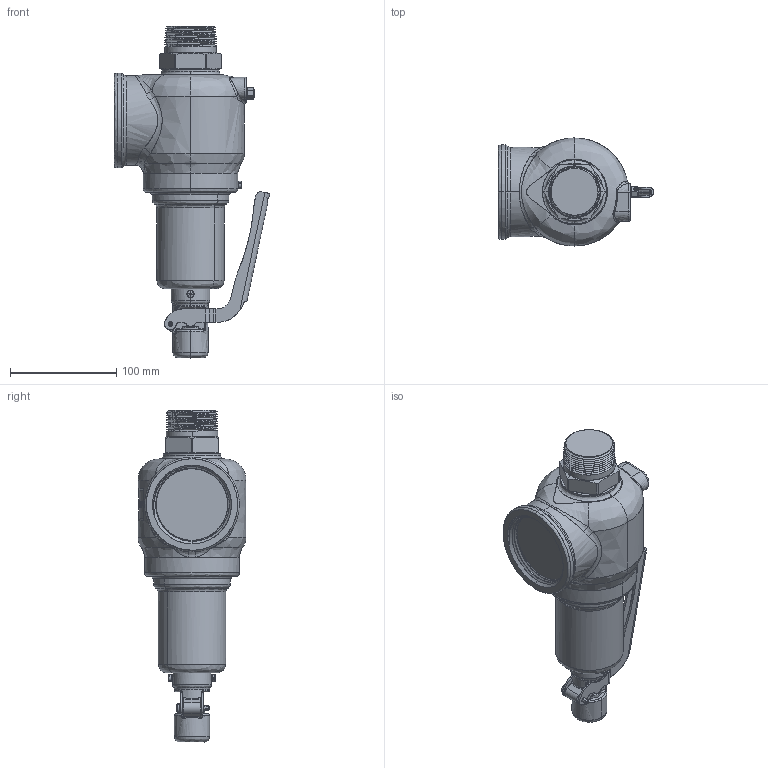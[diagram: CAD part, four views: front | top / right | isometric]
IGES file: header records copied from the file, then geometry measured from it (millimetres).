
Start section: SolidWorks IGES file using NURBS representation for surfaces
Global section: file name: C:\Design\Design\Aquatrol\Customer 3D Files\Series 740 Customer Files\H Orifice\Customer\Iges Files\Series 740 H 1500 x 2500 Open Lever.IGS; native system: SolidWorks 2015; preprocessor: SolidWorks 2015; author: Karl; date: 150515.104110; units: inch
Bounding box: 146.32 x 101.6 x 312.36 mm (x, y, z)
Surface area: 104862.4 mm2 (no closed solid volume)
Topology: 0 solids, 0 shells, 511 faces, 9173 edges, 9173 vertices
Faces by surface type: bspline 511
